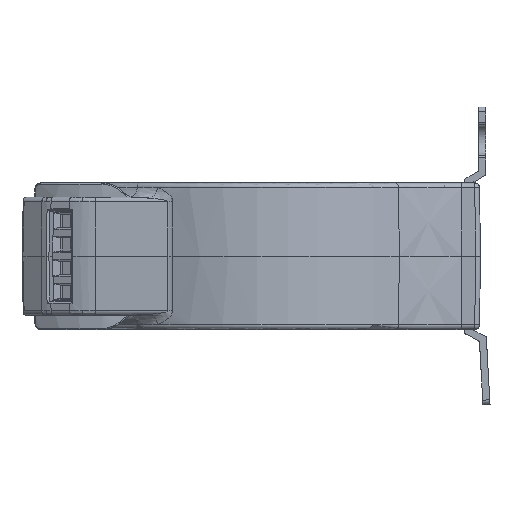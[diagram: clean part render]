
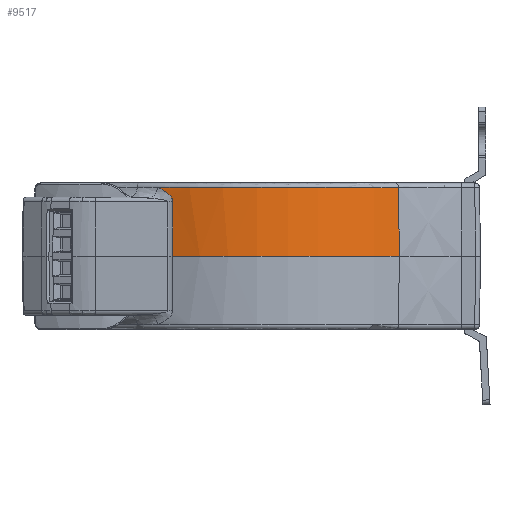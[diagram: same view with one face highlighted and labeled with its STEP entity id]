
A CAD part, left-side view. The second image highlights one B-rep face of the part: STEP entity #9517.
In plain terms, the highlighted conical face has half-angle 1 degrees and reference radius 46.193 mm.
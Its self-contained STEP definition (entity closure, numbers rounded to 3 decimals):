
#3165=CARTESIAN_POINT('',(0.,0.,0.));
#3166=DIRECTION('',(0.,0.,1.));
#3167=DIRECTION('',(-0.923,0.386,0.));
#3168=AXIS2_PLACEMENT_3D('',#3165,#3166,#3167);
#3170=CARTESIAN_POINT('',(0.,0.,0.));
#3171=DIRECTION('',(0.,0.,1.));
#3172=DIRECTION('',(-1.,0.,0.));
#3173=AXIS2_PLACEMENT_3D('',#3170,#3171,#3172);
#3326=CARTESIAN_POINT('',(-42.733,17.871,
0.));
#3333=CARTESIAN_POINT('',(-42.535,17.823,11.517));
#3334=CARTESIAN_POINT('',(-42.533,17.823,11.624));
#3335=CARTESIAN_POINT('',(-42.52,17.844,11.836));
#3336=CARTESIAN_POINT('',(-42.477,17.934,12.133));
#3337=CARTESIAN_POINT('',(-42.426,18.044,12.359));
#3338=CARTESIAN_POINT('',(-42.377,18.15,12.531));
#3339=CARTESIAN_POINT('',(-42.326,18.263,12.694));
#3340=CARTESIAN_POINT('',(-42.255,18.418,12.883));
#3341=CARTESIAN_POINT('',(-42.131,18.689,13.162));
#3342=CARTESIAN_POINT('',(-41.963,19.051,13.465));
#3343=CARTESIAN_POINT('',(-41.746,19.51,13.78));
#3344=CARTESIAN_POINT('',(-41.437,20.146,14.151));
#3345=CARTESIAN_POINT('',(-41.19,20.636,14.381));
#3346=CARTESIAN_POINT('',(-41.018,20.966,14.517));
#3348=DIRECTION('',(-0.013,-0.011,-1.));
#3349=VECTOR('',#3348,14.52);
#3350=CARTESIAN_POINT('',(-34.989,-29.964,
14.517));
#3351=LINE('',#3350,#3349);
#3352=CARTESIAN_POINT('',(-42.733,17.871,
0.));
#3353=CARTESIAN_POINT('',(-42.711,17.865,1.28));
#3354=CARTESIAN_POINT('',(-42.667,17.854,3.839));
#3355=CARTESIAN_POINT('',(-42.601,17.84,7.678));
#3356=CARTESIAN_POINT('',(-42.557,17.828,10.238));
#3357=CARTESIAN_POINT('',(-42.535,17.823,11.517));
#3474=CARTESIAN_POINT('',(0.,0.,
14.517));
#3475=DIRECTION('',(0.,0.,-1.));
#3476=DIRECTION('',(-0.76,-0.65,0.));
#3477=AXIS2_PLACEMENT_3D('',#3474,#3475,#3476);
#3479=CARTESIAN_POINT('',(0.,0.,
14.517));
#3480=DIRECTION('',(0.,0.,-1.));
#3481=DIRECTION('',(-1.,0.,0.));
#3482=AXIS2_PLACEMENT_3D('',#3479,#3480,#3481);
#7140=VERTEX_POINT('',#3326);
#7142=CARTESIAN_POINT('',(-46.319,0.,
0.));
#7143=VERTEX_POINT('',#7142);
#7144=CARTESIAN_POINT('',(-35.181,-30.129,
0.));
#7145=VERTEX_POINT('',#7144);
#7229=VERTEX_POINT('',#3357);
#7232=VERTEX_POINT('',#3346);
#7233=CARTESIAN_POINT('',(-34.989,-29.964,
14.517));
#7234=CARTESIAN_POINT('',(-46.066,0.,14.517));
#7235=VERTEX_POINT('',#7233);
#7236=VERTEX_POINT('',#7234);
#9499=CARTESIAN_POINT('',(0.,0.,7.259));
#9500=DIRECTION('',(0.,0.,-1.));
#9501=DIRECTION('',(1.,0.,0.));
#9502=AXIS2_PLACEMENT_3D('',#9499,#9500,#9501);
#9503=CONICAL_SURFACE('',#9502,46.192,1.);
#9505=ORIENTED_EDGE('',*,*,#9504,.T.);
#9507=ORIENTED_EDGE('',*,*,#9506,.F.);
#9509=ORIENTED_EDGE('',*,*,#9508,.F.);
#9511=ORIENTED_EDGE('',*,*,#9510,.T.);
#9512=ORIENTED_EDGE('',*,*,#9384,.F.);
#9513=ORIENTED_EDGE('',*,*,#9382,.F.);
#9514=ORIENTED_EDGE('',*,*,#9489,.T.);
#9515=EDGE_LOOP('',(#9505,#9507,#9509,#9511,#9512,#9513,#9514));
#9516=FACE_OUTER_BOUND('',#9515,.F.);
#3169=CIRCLE('',#3168,46.319);
#3174=CIRCLE('',#3173,46.319);
#3347=B_SPLINE_CURVE_WITH_KNOTS('',3,(#3333,#3334,#3335,#3336,#3337,#3338,#3339,
#3340,#3341,#3342,#3343,#3344,#3345,#3346),.UNSPECIFIED.,.F.,.F.,(4,1,1,1,1,1,1,
1,1,1,1,4),(0.,0.063,0.125,0.188,
0.219,0.25,0.313,0.375,
0.5,0.625,0.75,1.),.UNSPECIFIED.);
#3358=B_SPLINE_CURVE_WITH_KNOTS('',3,(#3352,#3353,#3354,#3355,#3356,#3357),
.UNSPECIFIED.,.F.,.F.,(4,1,1,4),(0.,0.333,0.667,1.),
.UNSPECIFIED.);
#3478=CIRCLE('',#3477,46.066);
#3483=CIRCLE('',#3482,46.066);
#9382=EDGE_CURVE('',#7140,#7143,#3169,.T.);
#9384=EDGE_CURVE('',#7143,#7145,#3174,.T.);
#9489=EDGE_CURVE('',#7140,#7229,#3358,.T.);
#9504=EDGE_CURVE('',#7229,#7232,#3347,.T.);
#9506=EDGE_CURVE('',#7236,#7232,#3483,.T.);
#9508=EDGE_CURVE('',#7235,#7236,#3478,.T.);
#9510=EDGE_CURVE('',#7235,#7145,#3351,.T.);
#9517=ADVANCED_FACE('',(#9516),#9503,.T.);
